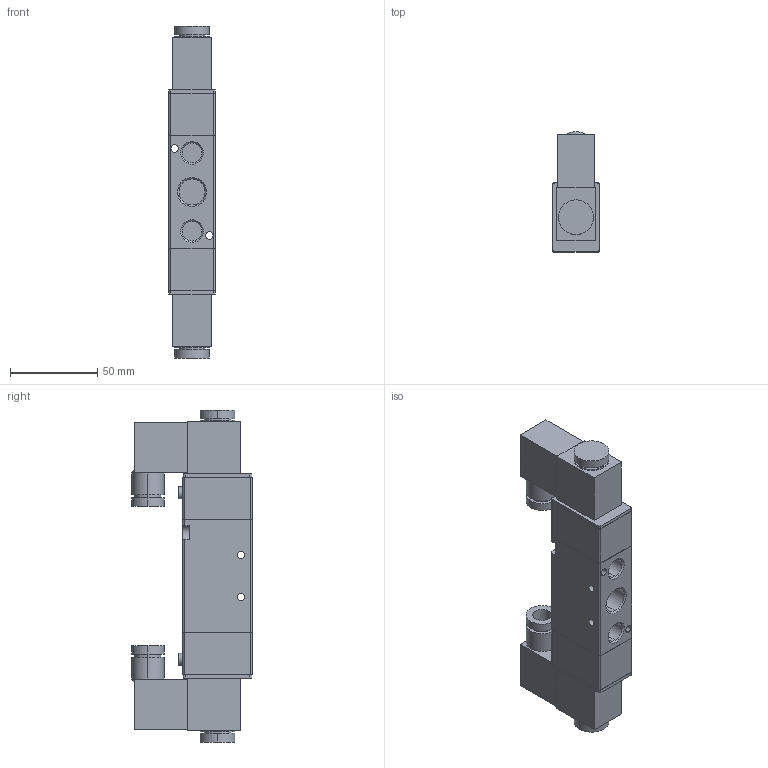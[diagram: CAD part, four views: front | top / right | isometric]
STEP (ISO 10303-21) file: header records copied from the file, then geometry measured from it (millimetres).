
FILE_DESCRIPTION (( 'STEP AP203' ), '1' );
FILE_NAME ('VB5-D03.STEP', '2020-04-15T17:01:35', ( '' ), ( '' ), 'SwSTEP 2.0', 'SolidWorks 2019', '' );
FILE_SCHEMA (( 'CONFIG_CONTROL_DESIGN' ));
Length unit declared in the file: millimetre
Products named in the file (1): VB5-D03
Bounding box: 27 x 69.3 x 190.8 mm (x, y, z)
Volume: 202070.9 mm3; surface area: 39808.2 mm2
Topology: 1 solids, 1 shells, 159 faces, 376 edges, 246 vertices
Faces by surface type: cylinder 74, plane 73, cone 12
Entity records: 4824 total; most frequent: CARTESIAN_POINT 897, DIRECTION 856, ORIENTED_EDGE 752, EDGE_CURVE 376, AXIS2_PLACEMENT_3D 322, VERTEX_POINT 246, LINE 212, VECTOR 212
